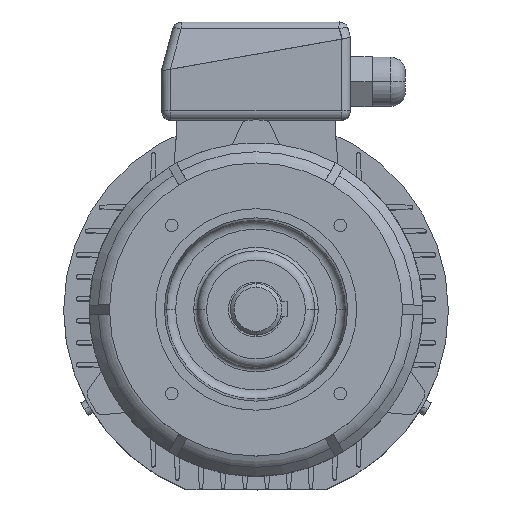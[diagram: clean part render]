
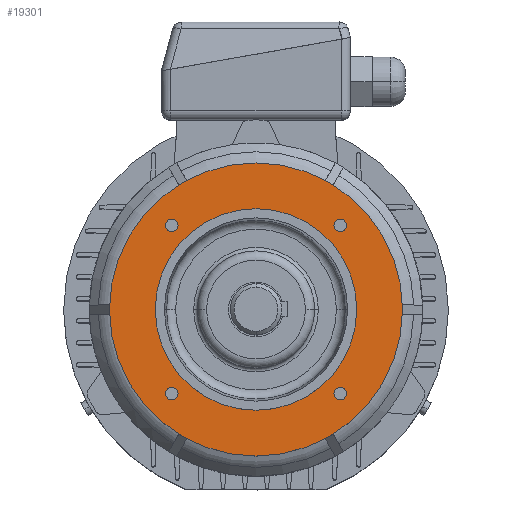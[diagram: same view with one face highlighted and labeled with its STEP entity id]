
A CAD part, top view. The second image highlights one B-rep face of the part: STEP entity #19301.
In plain terms, the highlighted planar face has unit normal (0, 0, 1).
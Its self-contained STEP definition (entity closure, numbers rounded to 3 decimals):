
#16432 = EDGE_LOOP ( 'NONE', ( #3864, #3257 ) ) ;
#16480 = VERTEX_POINT ( 'NONE', #14429 ) ;
#254 = ORIENTED_EDGE ( 'NONE', *, *, #26130, .F. ) ;
#16737 = EDGE_CURVE ( 'NONE', #12885, #17410, #14802, .T. ) ;
#16830 = VERTEX_POINT ( 'NONE', #14899 ) ;
#17192 = ORIENTED_EDGE ( 'NONE', *, *, #16737, .T. ) ;
#17251 = VERTEX_POINT ( 'NONE', #15344 ) ;
#903 = EDGE_LOOP ( 'NONE', ( #254, #25479 ) ) ;
#17288 = FACE_BOUND ( 'NONE', #18794, .T. ) ;
#17289 = FACE_OUTER_BOUND ( 'NONE', #16432, .T. ) ;
#17290 = FACE_BOUND ( 'NONE', #2959, .T. ) ;
#17291 = FACE_BOUND ( 'NONE', #903, .T. ) ;
#17296 = FACE_BOUND ( 'NONE', #25168, .T. ) ;
#17297 = FACE_BOUND ( 'NONE', #8626, .T. ) ;
#17298 = PLANE ( 'NONE',  #17299 ) ;
#17299 = AXIS2_PLACEMENT_3D ( 'NONE', #17300, #17301, #17302 ) ;
#17300 = CARTESIAN_POINT ( 'NONE',  ( -80., 0., 45. ) ) ;
#17301 = DIRECTION ( 'NONE',  ( 0., 0., 1. ) ) ;
#17302 = DIRECTION ( 'NONE',  ( 1., 0., 0. ) ) ;
#984 = CARTESIAN_POINT ( 'NONE',  ( -49.362, 45.962, 45. ) ) ;
#17410 = VERTEX_POINT ( 'NONE', #15507 ) ;
#17456 = EDGE_CURVE ( 'NONE', #13629, #21532, #15644, .T. ) ;
#1211 = ORIENTED_EDGE ( 'NONE', *, *, #12183, .F. ) ;
#17973 = CIRCLE ( 'NONE', #17974, 3.4 ) ;
#17974 = AXIS2_PLACEMENT_3D ( 'NONE', #17975, #17976, #17977 ) ;
#17975 = CARTESIAN_POINT ( 'NONE',  ( -45.962, 45.962, 45. ) ) ;
#17976 = DIRECTION ( 'NONE',  ( 0., 0., 1. ) ) ;
#17977 = DIRECTION ( 'NONE',  ( 1., 0., 0. ) ) ;
#18051 = ORIENTED_EDGE ( 'NONE', *, *, #14135, .T. ) ;
#1864 = EDGE_CURVE ( 'NONE', #15844, #8113, #21772, .T. ) ;
#2310 = ORIENTED_EDGE ( 'NONE', *, *, #1864, .F. ) ;
#18786 = CARTESIAN_POINT ( 'NONE',  ( 49.362, -45.962, 45. ) ) ;
#18794 = EDGE_LOOP ( 'NONE', ( #18051, #17192 ) ) ;
#19301 = ADVANCED_FACE ( 'NONE', ( #17288, #17289, #17290, #17291, #17296, #17297 ), #17298, .T. ) ;
#2959 = EDGE_LOOP ( 'NONE', ( #2310, #1211 ) ) ;
#19528 = CIRCLE ( 'NONE', #19550, 80. ) ;
#19550 = AXIS2_PLACEMENT_3D ( 'NONE', #19551, #19552, #19553 ) ;
#19551 = CARTESIAN_POINT ( 'NONE',  ( 0., 0., 45. ) ) ;
#19552 = DIRECTION ( 'NONE',  ( 0., 0., -1. ) ) ;
#19553 = DIRECTION ( 'NONE',  ( -1., 0., 0. ) ) ;
#3257 = ORIENTED_EDGE ( 'NONE', *, *, #22314, .F. ) ;
#3864 = ORIENTED_EDGE ( 'NONE', *, *, #14775, .F. ) ;
#20363 = EDGE_CURVE ( 'NONE', #4584, #16480, #17973, .T. ) ;
#4221 = CIRCLE ( 'NONE', #4222, 3.4 ) ;
#4222 = AXIS2_PLACEMENT_3D ( 'NONE', #4223, #4224, #4225 ) ;
#4223 = CARTESIAN_POINT ( 'NONE',  ( -45.962, 45.962, 45. ) ) ;
#4224 = DIRECTION ( 'NONE',  ( 0., 0., 1. ) ) ;
#4225 = DIRECTION ( 'NONE',  ( 1., 0., 0. ) ) ;
#4584 = VERTEX_POINT ( 'NONE', #984 ) ;
#5031 = CARTESIAN_POINT ( 'NONE',  ( -49.362, -45.962, 45. ) ) ;
#21532 = VERTEX_POINT ( 'NONE', #18786 ) ;
#21772 = CIRCLE ( 'NONE', #21773, 3.4 ) ;
#21773 = AXIS2_PLACEMENT_3D ( 'NONE', #21774, #21775, #21776 ) ;
#21774 = CARTESIAN_POINT ( 'NONE',  ( -45.962, -45.962, 45. ) ) ;
#21775 = DIRECTION ( 'NONE',  ( 0., 0., 1. ) ) ;
#21776 = DIRECTION ( 'NONE',  ( 1., 0., 0. ) ) ;
#22314 = EDGE_CURVE ( 'NONE', #14267, #14541, #19528, .T. ) ;
#6238 = CIRCLE ( 'NONE', #6239, 3.4 ) ;
#6239 = AXIS2_PLACEMENT_3D ( 'NONE', #6240, #6241, #6242 ) ;
#6240 = CARTESIAN_POINT ( 'NONE',  ( 45.962, 45.962, 45. ) ) ;
#6241 = DIRECTION ( 'NONE',  ( 0., 0., 1. ) ) ;
#6242 = DIRECTION ( 'NONE',  ( 1., 0., 0. ) ) ;
#6644 = ORIENTED_EDGE ( 'NONE', *, *, #20363, .F. ) ;
#6941 = CIRCLE ( 'NONE', #6942, 3.4 ) ;
#6942 = AXIS2_PLACEMENT_3D ( 'NONE', #6943, #6944, #6945 ) ;
#6943 = CARTESIAN_POINT ( 'NONE',  ( 45.962, 45.962, 45. ) ) ;
#6944 = DIRECTION ( 'NONE',  ( 0., 0., 1. ) ) ;
#6945 = DIRECTION ( 'NONE',  ( 1., 0., 0. ) ) ;
#7503 = EDGE_CURVE ( 'NONE', #16480, #4584, #4221, .T. ) ;
#7971 = ORIENTED_EDGE ( 'NONE', *, *, #7503, .F. ) ;
#24389 = CIRCLE ( 'NONE', #24390, 3.4 ) ;
#24390 = AXIS2_PLACEMENT_3D ( 'NONE', #24417, #24418, #24419 ) ;
#24417 = CARTESIAN_POINT ( 'NONE',  ( 45.962, -45.962, 45. ) ) ;
#24418 = DIRECTION ( 'NONE',  ( 0., 0., 1. ) ) ;
#24419 = DIRECTION ( 'NONE',  ( 1., 0., 0. ) ) ;
#8113 = VERTEX_POINT ( 'NONE', #5031 ) ;
#8626 = EDGE_LOOP ( 'NONE', ( #7971, #6644 ) ) ;
#25168 = EDGE_LOOP ( 'NONE', ( #9988, #8927 ) ) ;
#8927 = ORIENTED_EDGE ( 'NONE', *, *, #9068, .F. ) ;
#9068 = EDGE_CURVE ( 'NONE', #17251, #16830, #6238, .T. ) ;
#25479 = ORIENTED_EDGE ( 'NONE', *, *, #17456, .F. ) ;
#9584 = EDGE_CURVE ( 'NONE', #16830, #17251, #6941, .T. ) ;
#26130 = EDGE_CURVE ( 'NONE', #21532, #13629, #24389, .T. ) ;
#9933 = CIRCLE ( 'NONE', #9934, 3.4 ) ;
#9934 = AXIS2_PLACEMENT_3D ( 'NONE', #9935, #9936, #9937 ) ;
#9935 = CARTESIAN_POINT ( 'NONE',  ( -45.962, -45.962, 45. ) ) ;
#9936 = DIRECTION ( 'NONE',  ( 0., 0., 1. ) ) ;
#9937 = DIRECTION ( 'NONE',  ( 1., 0., 0. ) ) ;
#9988 = ORIENTED_EDGE ( 'NONE', *, *, #9584, .F. ) ;
#10493 = CARTESIAN_POINT ( 'NONE',  ( 55., 0., 45. ) ) ;
#11370 = CARTESIAN_POINT ( 'NONE',  ( 42.562, -45.962, 45. ) ) ;
#11760 = CIRCLE ( 'NONE', #11761, 55. ) ;
#11761 = AXIS2_PLACEMENT_3D ( 'NONE', #11762, #11763, #11764 ) ;
#11762 = CARTESIAN_POINT ( 'NONE',  ( 0., 0., 45. ) ) ;
#11763 = DIRECTION ( 'NONE',  ( 0., 0., -1. ) ) ;
#11764 = DIRECTION ( 'NONE',  ( -1., 0., 0. ) ) ;
#11975 = CARTESIAN_POINT ( 'NONE',  ( 80., 0., 45. ) ) ;
#12183 = EDGE_CURVE ( 'NONE', #8113, #15844, #9933, .T. ) ;
#12301 = CARTESIAN_POINT ( 'NONE',  ( -80., 0., 45. ) ) ;
#12608 = CIRCLE ( 'NONE', #12614, 80. ) ;
#12614 = AXIS2_PLACEMENT_3D ( 'NONE', #12615, #12616, #12617 ) ;
#12615 = CARTESIAN_POINT ( 'NONE',  ( 0., 0., 45. ) ) ;
#12616 = DIRECTION ( 'NONE',  ( 0., 0., -1. ) ) ;
#12617 = DIRECTION ( 'NONE',  ( -1., 0., 0. ) ) ;
#12885 = VERTEX_POINT ( 'NONE', #10493 ) ;
#13629 = VERTEX_POINT ( 'NONE', #11370 ) ;
#13724 = CARTESIAN_POINT ( 'NONE',  ( -42.562, -45.962, 45. ) ) ;
#14135 = EDGE_CURVE ( 'NONE', #17410, #12885, #11760, .T. ) ;
#14267 = VERTEX_POINT ( 'NONE', #11975 ) ;
#14429 = CARTESIAN_POINT ( 'NONE',  ( -42.562, 45.962, 45. ) ) ;
#14541 = VERTEX_POINT ( 'NONE', #12301 ) ;
#14775 = EDGE_CURVE ( 'NONE', #14541, #14267, #12608, .T. ) ;
#14802 = CIRCLE ( 'NONE', #14803, 55. ) ;
#14803 = AXIS2_PLACEMENT_3D ( 'NONE', #14804, #14805, #14806 ) ;
#14804 = CARTESIAN_POINT ( 'NONE',  ( 0., 0., 45. ) ) ;
#14805 = DIRECTION ( 'NONE',  ( 0., 0., -1. ) ) ;
#14806 = DIRECTION ( 'NONE',  ( -1., 0., 0. ) ) ;
#14899 = CARTESIAN_POINT ( 'NONE',  ( 49.362, 45.962, 45. ) ) ;
#15344 = CARTESIAN_POINT ( 'NONE',  ( 42.562, 45.962, 45. ) ) ;
#15507 = CARTESIAN_POINT ( 'NONE',  ( -55., 0., 45. ) ) ;
#15644 = CIRCLE ( 'NONE', #15645, 3.4 ) ;
#15645 = AXIS2_PLACEMENT_3D ( 'NONE', #15646, #15647, #15648 ) ;
#15646 = CARTESIAN_POINT ( 'NONE',  ( 45.962, -45.962, 45. ) ) ;
#15647 = DIRECTION ( 'NONE',  ( 0., 0., 1. ) ) ;
#15648 = DIRECTION ( 'NONE',  ( 1., 0., 0. ) ) ;
#15844 = VERTEX_POINT ( 'NONE', #13724 ) ;
